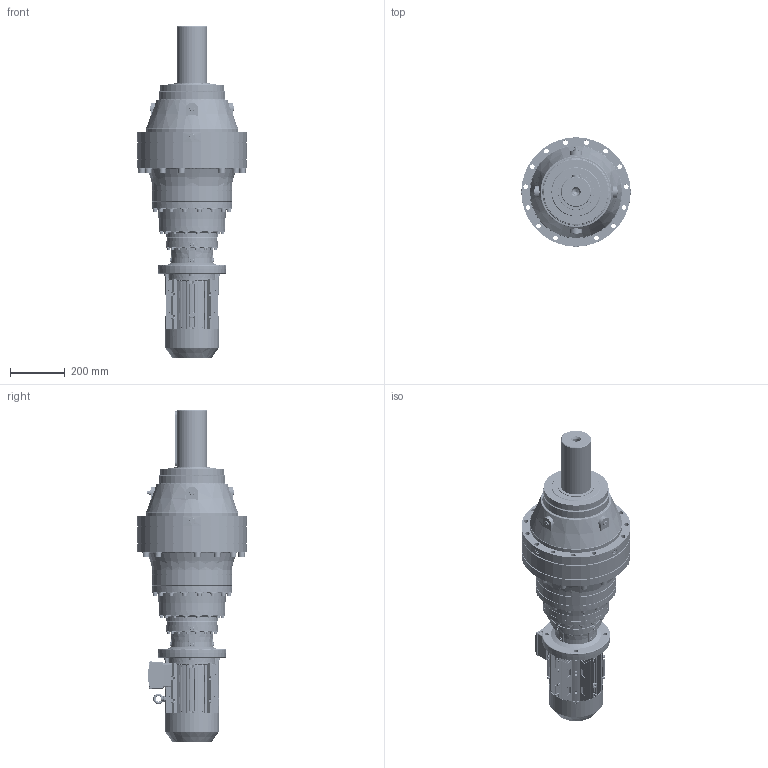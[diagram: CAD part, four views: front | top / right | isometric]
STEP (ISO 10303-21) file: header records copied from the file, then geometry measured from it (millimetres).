
FILE_DESCRIPTION (( 'STEP AP203' ), '1' );
FILE_NAME ('PVL_2704L-100M-4.STEP', '2019-05-10T07:43:06', ( '' ), ( '' ), 'SwSTEP 2.0', 'SolidWorks 2012', '' );
FILE_SCHEMA (( 'CONFIG_CONTROL_DESIGN' ));
Products named in the file (19): IE3 100 fan cover; IE3 100 fan; IE3 100 terminal box cover; eyebolts gb_GB_FASTENER_SCREWS_FRS M8-N; IE3 100 B3 Shield; IE3 100 Shaft; IE3 100 terminal box base; PNL_2704L_0_0_A10_B5_ML43A_FL12A_0_0_0_0_0_0_0_0_0_0_0_M1; IE3 100 casing; FL12A_Varsayìlan; EK2704L_Varsayìlan; P27_Varsayìlan; 11100B5_Varsayìlan; ML43A_Varsayìlan; MX3-100L_B5; IE3 100 B5 flange; PVL_2704L-100M-4; IE3 100 shaft cover; plain parallel keys_GB_CONNECTING_PIECE_KEYS_CSK 8X50
Assembly tree (19 placements, depth 3):
  PVL_2704L-100M-4
    PNL_2704L_0_0_A10_B5_ML43A_FL12A_0_0_0_0_0_0_0_0_0_0_0_M1
      P27_Varsayìlan
      11100B5_Varsayìlan
      ML43A_Varsayìlan
      EK2704L_Varsayìlan
      FL12A_Varsayìlan
    MX3-100L_B5
      IE3 100 casing
      IE3 100 B3 Shield
      IE3 100 Shaft
      eyebolts gb_GB_FASTENER_SCREWS_FRS M8-N
      IE3 100 terminal box base
      IE3 100 terminal box cover
      IE3 100 fan
      IE3 100 fan cover
      plain parallel keys_GB_CONNECTING_PIECE_KEYS_CSK 8X50
      IE3 100 shaft cover  x2
      IE3 100 B5 flange
Bounding box: 400 x 400 x 1216.11 mm (x, y, z)
Volume: 49195526.7 mm3; surface area: 2836872 mm2
Topology: 26 solids, 28 shells, 7875 faces, 20480 edges, 12617 vertices
Faces by surface type: plane 2861, cylinder 2160, bspline 1866, cone 588, torus 308, sphere 92
Entity records: 308751 total; most frequent: CARTESIAN_POINT 128177, ORIENTED_EDGE 40086, DIRECTION 34168, EDGE_CURVE 20043, AXIS2_PLACEMENT_3D 12902, VERTEX_POINT 12509, EDGE_LOOP 8582, LINE 8364
